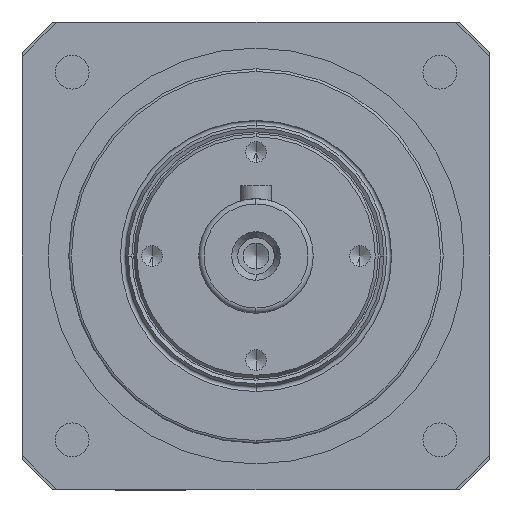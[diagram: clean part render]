
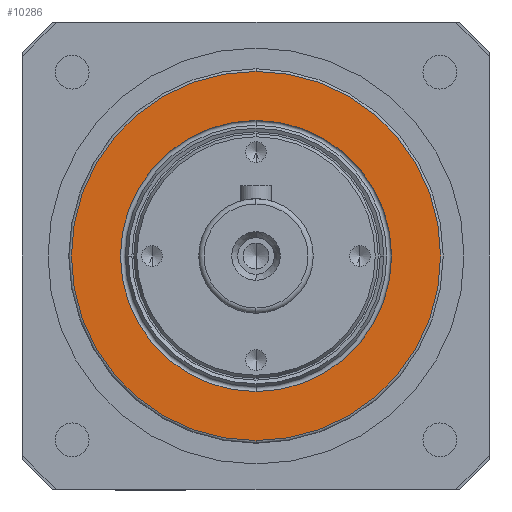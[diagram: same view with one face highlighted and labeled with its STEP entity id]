
A CAD part, left-side view. The second image highlights one B-rep face of the part: STEP entity #10286.
In plain terms, the highlighted planar face has unit normal (-1, 0, 0) as drawn and (0, -1, 0) by its records, which use the part's own axes.
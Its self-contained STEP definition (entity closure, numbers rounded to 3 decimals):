
#110 = EDGE_CURVE ( 'NONE', #34028, #38454, #8653, .T. ) ;
#225 = DIRECTION ( 'NONE',  ( 0., 0., -1. ) ) ;
#587 = CARTESIAN_POINT ( 'NONE',  ( 0., 0., 26.073 ) ) ;
#991 = PLANE ( 'NONE',  #35866 ) ;
#1077 = EDGE_CURVE ( 'NONE', #34445, #17944, #1737, .T. ) ;
#1737 = CIRCLE ( 'NONE', #14120, 26.073 ) ;
#3721 = ORIENTED_EDGE ( 'NONE', *, *, #1077, .T. ) ;
#3960 = CARTESIAN_POINT ( 'NONE',  ( 0., 0., 35.5 ) ) ;
#4403 = ORIENTED_EDGE ( 'NONE', *, *, #25086, .T. ) ;
#5137 = ORIENTED_EDGE ( 'NONE', *, *, #110, .T. ) ;
#5381 = DIRECTION ( 'NONE',  ( 0., 0., 1. ) ) ;
#5394 = DIRECTION ( 'NONE',  ( 0., -1., 0. ) ) ;
#5432 = CARTESIAN_POINT ( 'NONE',  ( 0., 0., 0. ) ) ;
#5558 = ORIENTED_EDGE ( 'NONE', *, *, #19798, .T. ) ;
#6200 = DIRECTION ( 'NONE',  ( 0., -1., 0. ) ) ;
#8016 = CARTESIAN_POINT ( 'NONE',  ( 0., 0., 0. ) ) ;
#8653 = CIRCLE ( 'NONE', #37221, 35.5 ) ;
#9279 = CARTESIAN_POINT ( 'NONE',  ( 0., 0., -26.073 ) ) ;
#10286 = ADVANCED_FACE ( 'NONE', ( #27307, #11122 ), #991, .T. ) ;
#11122 = FACE_OUTER_BOUND ( 'NONE', #19943, .T. ) ;
#13568 = DIRECTION ( 'NONE',  ( 0., -1., 0. ) ) ;
#14120 = AXIS2_PLACEMENT_3D ( 'NONE', #16349, #16258, #16247 ) ;
#14873 = DIRECTION ( 'NONE',  ( 0., 1., 0. ) ) ;
#16247 = DIRECTION ( 'NONE',  ( 0., 0., 1. ) ) ;
#16258 = DIRECTION ( 'NONE',  ( 0., 1., 0. ) ) ;
#16349 = CARTESIAN_POINT ( 'NONE',  ( 0., 0., 0. ) ) ;
#17944 = VERTEX_POINT ( 'NONE', #9279 ) ;
#18659 = EDGE_LOOP ( 'NONE', ( #3721, #4403 ) ) ;
#19798 = EDGE_CURVE ( 'NONE', #38454, #34028, #32710, .T. ) ;
#19943 = EDGE_LOOP ( 'NONE', ( #5137, #5558 ) ) ;
#25086 = EDGE_CURVE ( 'NONE', #17944, #34445, #35178, .T. ) ;
#27307 = FACE_BOUND ( 'NONE', #18659, .T. ) ;
#29338 = CARTESIAN_POINT ( 'NONE',  ( 0., 0., -35.5 ) ) ;
#32243 = AXIS2_PLACEMENT_3D ( 'NONE', #32995, #14873, #35955 ) ;
#32710 = CIRCLE ( 'NONE', #33980, 35.5 ) ;
#32995 = CARTESIAN_POINT ( 'NONE',  ( 0., 0., 0. ) ) ;
#33980 = AXIS2_PLACEMENT_3D ( 'NONE', #5432, #5394, #5381 ) ;
#34028 = VERTEX_POINT ( 'NONE', #37420 ) ;
#34094 = DIRECTION ( 'NONE',  ( 0., 0., 1. ) ) ;
#34445 = VERTEX_POINT ( 'NONE', #587 ) ;
#35178 = CIRCLE ( 'NONE', #32243, 26.073 ) ;
#35866 = AXIS2_PLACEMENT_3D ( 'NONE', #3960, #6200, #225 ) ;
#35955 = DIRECTION ( 'NONE',  ( 0., 0., 1. ) ) ;
#37221 = AXIS2_PLACEMENT_3D ( 'NONE', #8016, #13568, #34094 ) ;
#37420 = CARTESIAN_POINT ( 'NONE',  ( 0., 0., 35.5 ) ) ;
#38454 = VERTEX_POINT ( 'NONE', #29338 ) ;
